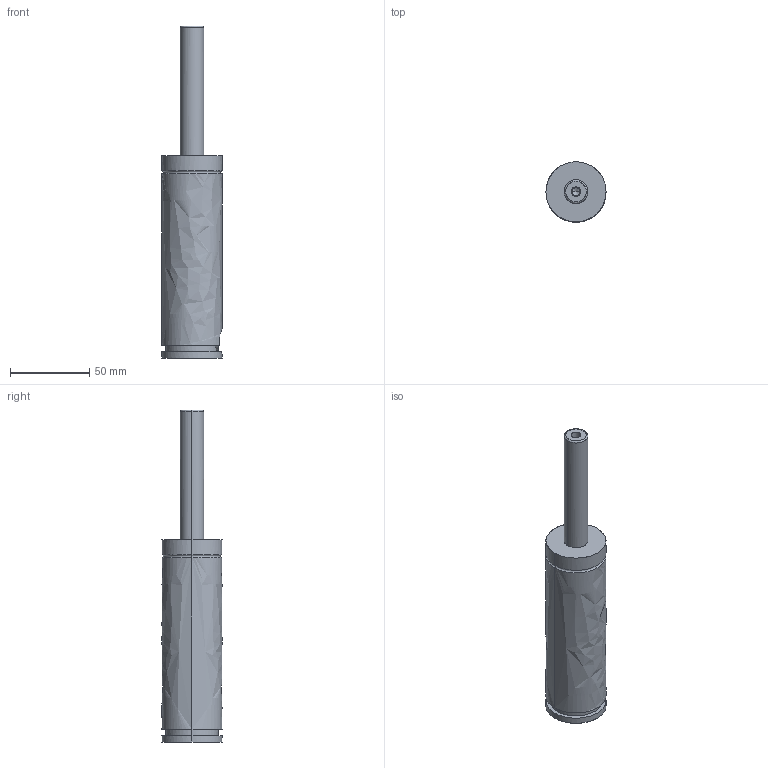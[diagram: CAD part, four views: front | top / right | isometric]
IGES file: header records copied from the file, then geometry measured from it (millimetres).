
Global section: file name: E:\UnigraphicsGraphicData\MISUMI_PRESS-PARTS\IGES\3d_gse38-80_03882_r00.igs; native system: NX V5.0; preprocessor: UGS NX IGES V5.0; author: MISUMI; date: 20110105.160756; units: millimetre
Bounding box: 38 x 38.02 x 210 mm (x, y, z)
Surface area: 23122.6 mm2 (no closed solid volume)
Topology: 0 solids, 0 shells, 57 faces, 430 edges, 428 vertices
Faces by surface type: bspline 57
